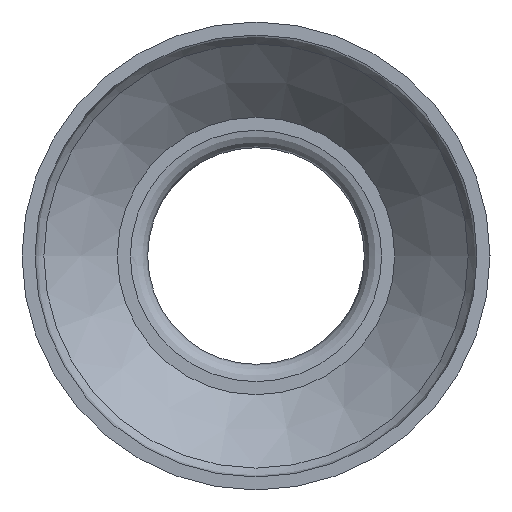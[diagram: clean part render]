
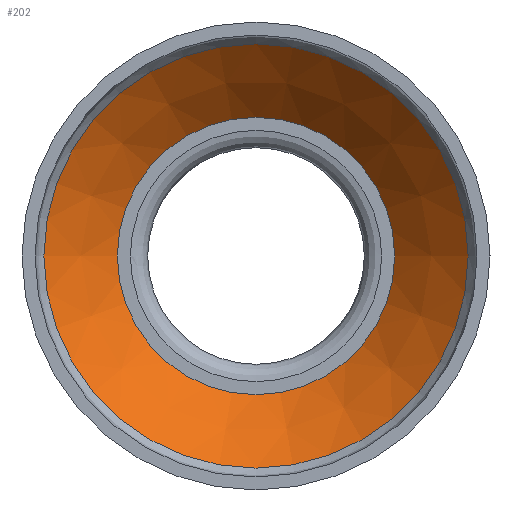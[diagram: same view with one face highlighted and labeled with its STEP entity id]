
A CAD part, left-side view. The second image highlights one B-rep face of the part: STEP entity #202.
In plain terms, the highlighted conical face has half-angle 45 degrees and reference radius 20.75 mm.
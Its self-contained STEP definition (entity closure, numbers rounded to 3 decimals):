
#160=CARTESIAN_POINT('',(58.404,24.475,0.));
#161=VERTEX_POINT('',#160);
#162=CARTESIAN_POINT('',(58.404,0.0,0.));
#163=DIRECTION('',(1.0,0.0,0.0));
#164=DIRECTION('',(0.0,-1.0,0.0));
#165=AXIS2_PLACEMENT_3D('',#162,#163,#164);
#166=CIRCLE('',#165,24.475);
#167=EDGE_CURVE('',#161,#161,#166,.T.);
#183=CARTESIAN_POINT('',(62.129,0.0,0.0));
#184=DIRECTION('',(-1.0,0.0,0.0));
#185=DIRECTION('',(0.0,1.0,0.0));
#186=AXIS2_PLACEMENT_3D('',#183,#184,#185);
#187=CONICAL_SURFACE('',#186,20.75,45.);
#188=CARTESIAN_POINT('',(66.879,16.0,0.0));
#189=VERTEX_POINT('',#188);
#190=CARTESIAN_POINT('',(66.879,0.0,0.0));
#191=DIRECTION('',(1.0,0.0,0.0));
#192=DIRECTION('',(0.0,1.0,0.0));
#193=AXIS2_PLACEMENT_3D('',#190,#191,#192);
#194=CIRCLE('',#193,16.0);
#195=EDGE_CURVE('',#189,#189,#194,.T.);
#196=ORIENTED_EDGE('',*,*,#195,.T.);
#197=EDGE_LOOP('',(#196));
#198=FACE_OUTER_BOUND('',#197,.T.);
#199=ORIENTED_EDGE('',*,*,#167,.F.);
#200=EDGE_LOOP('',(#199));
#201=FACE_BOUND('',#200,.T.);
#202=ADVANCED_FACE('',(#198,#201),#187,.F.);
